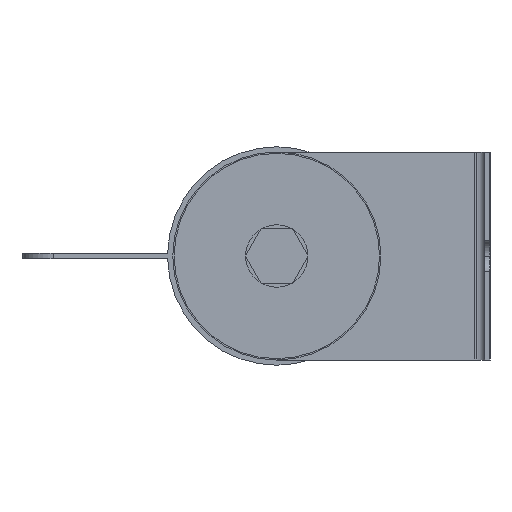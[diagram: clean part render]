
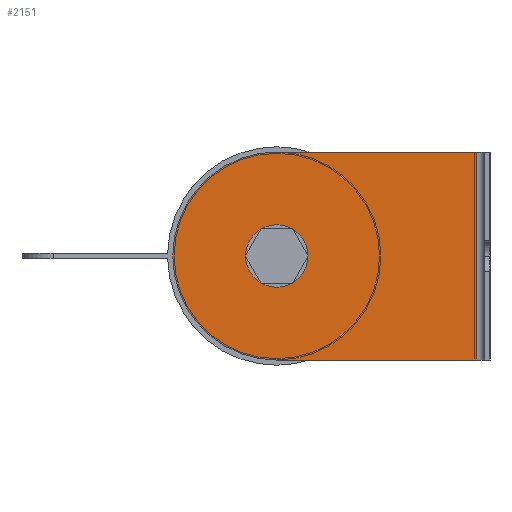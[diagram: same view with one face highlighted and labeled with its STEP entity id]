
A CAD part, left-side view. The second image highlights one B-rep face of the part: STEP entity #2151.
In plain terms, the highlighted planar face has unit normal (-1, 0, 0).
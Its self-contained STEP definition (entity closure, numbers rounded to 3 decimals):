
#8 = CARTESIAN_POINT ( 'NONE',  ( -281.5, -38.5, 20. ) ) ;
#19 = VECTOR ( 'NONE', #1153, 1000. ) ;
#43 = CARTESIAN_POINT ( 'NONE',  ( -281.5, 0., 0. ) ) ;
#47 = CARTESIAN_POINT ( 'NONE',  ( -281.5, 0., 20. ) ) ;
#66 = CIRCLE ( 'NONE', #826, 6. ) ;
#202 = CARTESIAN_POINT ( 'NONE',  ( -281.5, -38.5, -20. ) ) ;
#236 = AXIS2_PLACEMENT_3D ( 'NONE', #1713, #642, #1031 ) ;
#283 = DIRECTION ( 'NONE',  ( 0., 0., 1. ) ) ;
#287 = CARTESIAN_POINT ( 'NONE',  ( -281.5, -38.5, 20. ) ) ;
#321 = CARTESIAN_POINT ( 'NONE',  ( -281.5, 0., -6. ) ) ;
#379 = VECTOR ( 'NONE', #1269, 1000. ) ;
#384 = DIRECTION ( 'NONE',  ( 0., 0., 1. ) ) ;
#494 = LINE ( 'NONE', #1498, #379 ) ;
#528 = FACE_OUTER_BOUND ( 'NONE', #1733, .T. ) ;
#584 = FACE_BOUND ( 'NONE', #2752, .T. ) ;
#588 = VERTEX_POINT ( 'NONE', #1836 ) ;
#616 = ORIENTED_EDGE ( 'NONE', *, *, #1437, .F. ) ;
#642 = DIRECTION ( 'NONE',  ( -1., 0., 0. ) ) ;
#815 = VECTOR ( 'NONE', #1765, 1000. ) ;
#826 = AXIS2_PLACEMENT_3D ( 'NONE', #43, #1347, #283 ) ;
#873 = DIRECTION ( 'NONE',  ( -1., 0., 0. ) ) ;
#949 = CARTESIAN_POINT ( 'NONE',  ( -281.5, 0., -20. ) ) ;
#956 = ORIENTED_EDGE ( 'NONE', *, *, #2266, .F. ) ;
#1004 = EDGE_CURVE ( 'NONE', #2439, #1308, #1619, .T. ) ;
#1014 = VERTEX_POINT ( 'NONE', #47 ) ;
#1024 = ORIENTED_EDGE ( 'NONE', *, *, #2453, .T. ) ;
#1031 = DIRECTION ( 'NONE',  ( 0., 0., 1. ) ) ;
#1122 = CARTESIAN_POINT ( 'NONE',  ( -281.5, 0., 0. ) ) ;
#1153 = DIRECTION ( 'NONE',  ( 0., 0., 1. ) ) ;
#1260 = AXIS2_PLACEMENT_3D ( 'NONE', #1122, #873, #1958 ) ;
#1269 = DIRECTION ( 'NONE',  ( 0., -1., 0. ) ) ;
#1308 = VERTEX_POINT ( 'NONE', #8 ) ;
#1347 = DIRECTION ( 'NONE',  ( -1., 0., 0. ) ) ;
#1363 = ORIENTED_EDGE ( 'NONE', *, *, #1584, .T. ) ;
#1437 = EDGE_CURVE ( 'NONE', #1962, #588, #2548, .T. ) ;
#1498 = CARTESIAN_POINT ( 'NONE',  ( -281.5, 0., -20. ) ) ;
#1500 = DIRECTION ( 'NONE',  ( -1., 0., 0. ) ) ;
#1550 = CARTESIAN_POINT ( 'NONE',  ( -281.5, 0., 20. ) ) ;
#1584 = EDGE_CURVE ( 'NONE', #2725, #2439, #494, .T. ) ;
#1619 = LINE ( 'NONE', #287, #19 ) ;
#1681 = PLANE ( 'NONE',  #1260 ) ;
#1713 = CARTESIAN_POINT ( 'NONE',  ( -281.5, 0., 0. ) ) ;
#1733 = EDGE_LOOP ( 'NONE', ( #1363, #1937, #2669, #1024 ) ) ;
#1748 = EDGE_CURVE ( 'NONE', #1308, #1014, #2602, .T. ) ;
#1765 = DIRECTION ( 'NONE',  ( 0., 1., 0. ) ) ;
#1836 = CARTESIAN_POINT ( 'NONE',  ( -281.5, 0., 6. ) ) ;
#1920 = CARTESIAN_POINT ( 'NONE',  ( -281.5, 0., 0. ) ) ;
#1937 = ORIENTED_EDGE ( 'NONE', *, *, #1004, .T. ) ;
#1958 = DIRECTION ( 'NONE',  ( 0., 0., 1. ) ) ;
#1962 = VERTEX_POINT ( 'NONE', #321 ) ;
#2045 = CIRCLE ( 'NONE', #236, 20. ) ;
#2150 = AXIS2_PLACEMENT_3D ( 'NONE', #1920, #1500, #384 ) ;
#2151 = ADVANCED_FACE ( 'NONE', ( #584, #528 ), #1681, .T. ) ;
#2266 = EDGE_CURVE ( 'NONE', #588, #1962, #66, .T. ) ;
#2439 = VERTEX_POINT ( 'NONE', #202 ) ;
#2453 = EDGE_CURVE ( 'NONE', #1014, #2725, #2045, .T. ) ;
#2548 = CIRCLE ( 'NONE', #2150, 6. ) ;
#2602 = LINE ( 'NONE', #1550, #815 ) ;
#2669 = ORIENTED_EDGE ( 'NONE', *, *, #1748, .T. ) ;
#2725 = VERTEX_POINT ( 'NONE', #949 ) ;
#2752 = EDGE_LOOP ( 'NONE', ( #616, #956 ) ) ;
